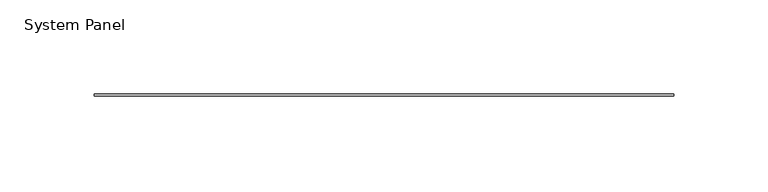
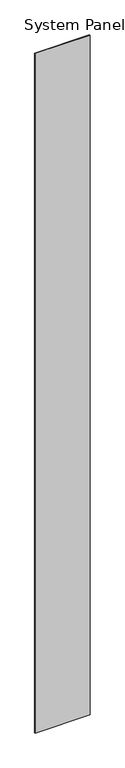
"""IFC4 building model written with IfcOpenShell, lengths in millimetres: plate geometry, System Panel : Stratco_Hiland_Tray."""

from ifc_helpers import new_model, si_unit, origin, origin_with_axes, place, context, project, spatial, polyline, outline, extrude, source, transform, mapped, element, save


def system_panel_5f39c921(model_context):
    return source(origin(), model_context, "Body", "SweptSolid", [
        extrude(outline(polyline([(153.2889718, 2.5), (-153.2889718, 2.5), (-153.2889718, 3.5), (153.2889718, 3.5), (153.2889718, 2.5)])), origin_with_axes(), (0.0, 0.0, 1.0), 4000.0),
    ])


if __name__ == "__main__":
    model = new_model("IFC4")
    model_context = context("Model", 3, world=origin())
    ifc_project = project(units=[si_unit("LENGTHUNIT", "METRE", prefix="MILLI")], contexts=[model_context])
    site = spatial("IfcSite", under=ifc_project)
    building = spatial("IfcBuilding", under=site)
    placement = place(None, origin())
    system_panel_shape = system_panel_5f39c921(model_context)
    element("IfcPlate", 1, ObjectType="System Panel : Stratco_Hiland_Tray", at=placement, inside=building, context=model_context, shape_type="MappedRepresentation", body=[
        mapped(system_panel_shape, transform((0.0, 0.0, 0.0), x_axis=(1.0, 0.0, 0.0), y_axis=(0.0, 1.0, 0.0), z_axis=(0.0, 0.0, 1.0))),
    ])
    save(model, "model.ifc")
